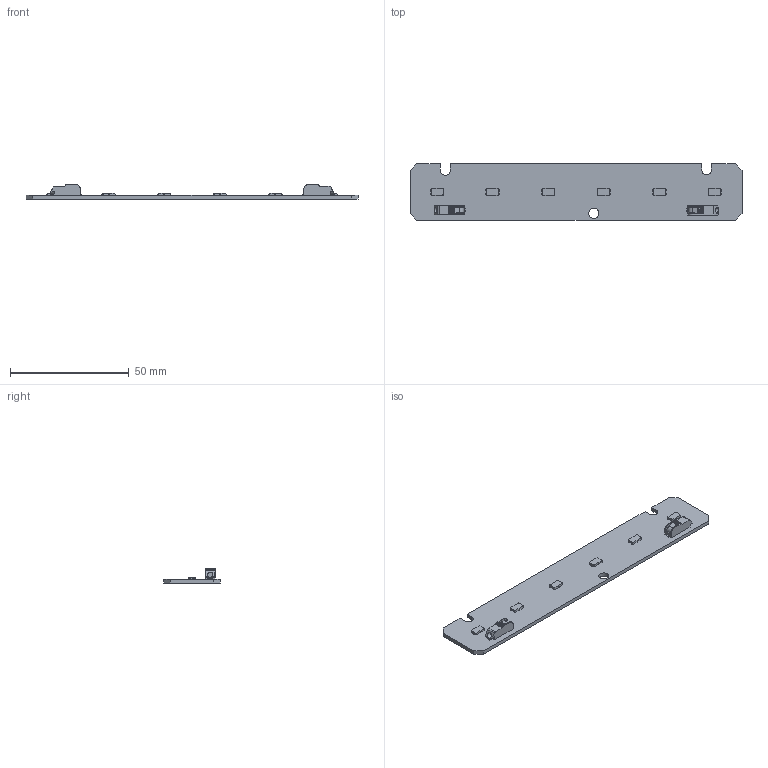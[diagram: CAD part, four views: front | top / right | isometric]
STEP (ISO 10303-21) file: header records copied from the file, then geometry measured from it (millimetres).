
FILE_DESCRIPTION((''),'2;1');
FILE_NAME('16206649_LLE24X140-G3-CLA_325LM','2016-06-24T',('bernhard.fink'),(''),'PRO/ENGINEER BY PARAMETRIC TECHNOLOGY CORPORATION, 2015200','PRO/ENGINEER BY PARAMETRIC TECHNOLOGY CORPORATION, 2015200','');
FILE_SCHEMA(('AUTOMOTIVE_DESIGN { 1 0 10303 214 1 1 1 1 }'));
Length unit declared in the file: millimetre
Products named in the file (1): 16206649_LLE24X140-G3-CLA_325LM
Bounding box: 139.8 x 23.8 x 6.15 mm (x, y, z)
Volume: 5751.5 mm3; surface area: 7817.6 mm2
Topology: 1 solids, 1 shells, 414 faces, 1190 edges, 786 vertices
Faces by surface type: plane 312, cylinder 62, cone 36, sphere 4
Entity records: 19024 total; most frequent: CARTESIAN_POINT 2598, ORIENTED_EDGE 2372, DIRECTION 2158, PRESENTATION_STYLE_ASSIGNMENT 1405, STYLED_ITEM 1187, CURVE_STYLE 1186, EDGE_CURVE 1186, VECTOR 918
